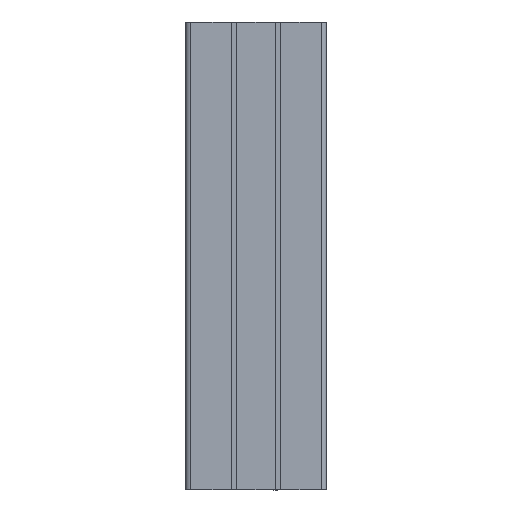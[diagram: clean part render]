
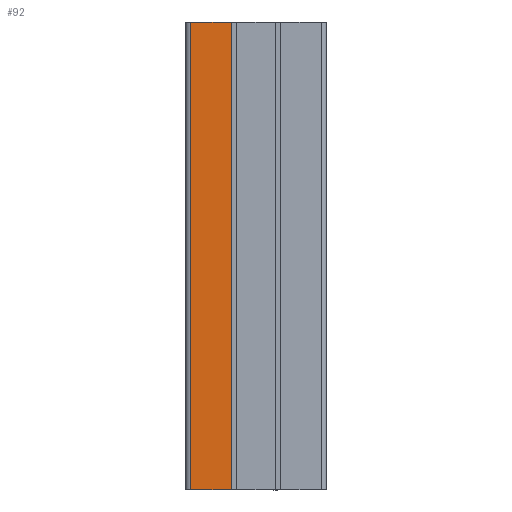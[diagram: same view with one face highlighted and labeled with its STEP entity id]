
A CAD part, front view. The second image highlights one B-rep face of the part: STEP entity #92.
In plain terms, the highlighted planar face has unit normal (0, -1, 0).
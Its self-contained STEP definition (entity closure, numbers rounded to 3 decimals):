
#75 = EDGE_CURVE ( 'NONE', #1883, #889, #1555, .T. ) ;
#92 = ADVANCED_FACE ( 'NONE', ( #1535 ), #1781, .T. ) ;
#408 = VERTEX_POINT ( 'NONE', #1871 ) ;
#497 = CARTESIAN_POINT ( 'NONE',  ( 0., 0., -100. ) ) ;
#555 = VECTOR ( 'NONE', #1788, 1000. ) ;
#565 = ORIENTED_EDGE ( 'NONE', *, *, #877, .F. ) ;
#585 = CARTESIAN_POINT ( 'NONE',  ( 9.75, 0., -100. ) ) ;
#588 = LINE ( 'NONE', #1620, #555 ) ;
#663 = EDGE_CURVE ( 'NONE', #981, #1883, #801, .T. ) ;
#690 = AXIS2_PLACEMENT_3D ( 'NONE', #1765, #1324, #2106 ) ;
#733 = CARTESIAN_POINT ( 'NONE',  ( 9.75, 0., -100. ) ) ;
#761 = DIRECTION ( 'NONE',  ( 0., 0., -1. ) ) ;
#788 = VECTOR ( 'NONE', #761, 1000. ) ;
#801 = LINE ( 'NONE', #1953, #788 ) ;
#804 = ORIENTED_EDGE ( 'NONE', *, *, #75, .T. ) ;
#877 = EDGE_CURVE ( 'NONE', #981, #408, #588, .T. ) ;
#889 = VERTEX_POINT ( 'NONE', #585 ) ;
#981 = VERTEX_POINT ( 'NONE', #1480 ) ;
#1014 = ORIENTED_EDGE ( 'NONE', *, *, #663, .T. ) ;
#1099 = DIRECTION ( 'NONE',  ( 1., 0., 0. ) ) ;
#1303 = DIRECTION ( 'NONE',  ( 0., 0., 1. ) ) ;
#1324 = DIRECTION ( 'NONE',  ( 0., -1., 0. ) ) ;
#1471 = VECTOR ( 'NONE', #1303, 1000. ) ;
#1480 = CARTESIAN_POINT ( 'NONE',  ( 1., 0., 0. ) ) ;
#1535 = FACE_OUTER_BOUND ( 'NONE', #1632, .T. ) ;
#1545 = LINE ( 'NONE', #733, #1471 ) ;
#1555 = LINE ( 'NONE', #497, #1560 ) ;
#1560 = VECTOR ( 'NONE', #1099, 1000. ) ;
#1620 = CARTESIAN_POINT ( 'NONE',  ( 0., 0., 0. ) ) ;
#1632 = EDGE_LOOP ( 'NONE', ( #1852, #565, #1014, #804 ) ) ;
#1765 = CARTESIAN_POINT ( 'NONE',  ( 0., 0., -100. ) ) ;
#1781 = PLANE ( 'NONE',  #690 ) ;
#1788 = DIRECTION ( 'NONE',  ( 1., 0., 0. ) ) ;
#1852 = ORIENTED_EDGE ( 'NONE', *, *, #1884, .T. ) ;
#1871 = CARTESIAN_POINT ( 'NONE',  ( 9.75, 0., 0. ) ) ;
#1883 = VERTEX_POINT ( 'NONE', #1932 ) ;
#1884 = EDGE_CURVE ( 'NONE', #889, #408, #1545, .T. ) ;
#1932 = CARTESIAN_POINT ( 'NONE',  ( 1., 0., -100. ) ) ;
#1953 = CARTESIAN_POINT ( 'NONE',  ( 1., 0., -100. ) ) ;
#2106 = DIRECTION ( 'NONE',  ( 0., 0., -1. ) ) ;
